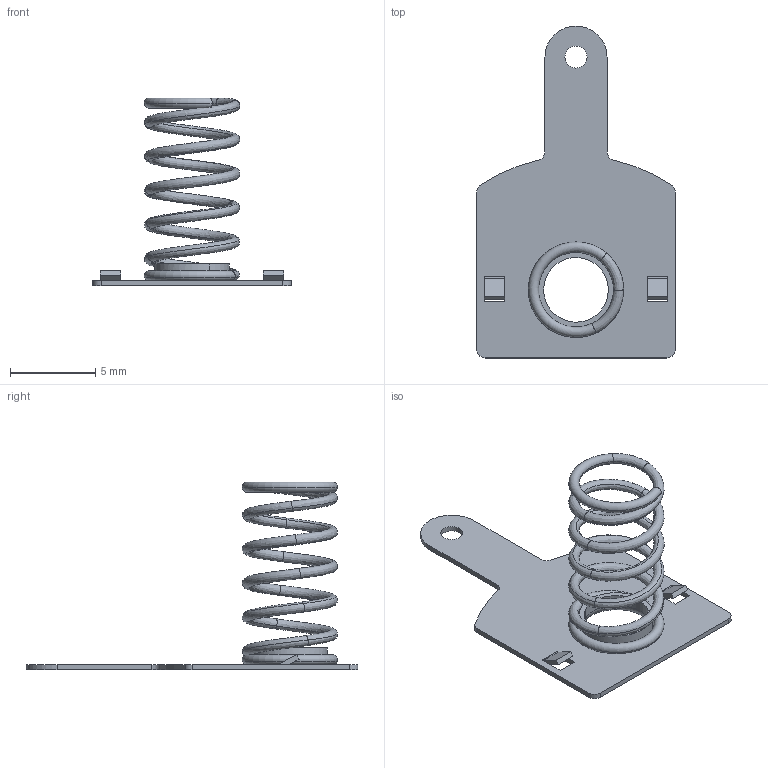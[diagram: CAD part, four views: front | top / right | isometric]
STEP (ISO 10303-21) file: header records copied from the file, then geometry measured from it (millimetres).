
FILE_DESCRIPTION(('CATIA V5 STEP Exchange'),'2;1');
FILE_NAME('X:\XDrive\Homepage\homes\techecke\elektronik\download\AA-Batteriekontakt_Minus.stp','2026-05-14T12:19:48+00:00',('none'),('none'),'CATIA Version 5 Release 19 SP 2 (IN-10)','CATIA V5 STEP AP203','none');
FILE_SCHEMA(('CONFIG_CONTROL_DESIGN'));
Length unit declared in the file: millimetre
Products named in the file (1): AA-Batteriekontakt_Minus
Bounding box: 11.65 x 19.5 x 11.04 mm (x, y, z)
Volume: 76 mm3; surface area: 523.4 mm2
Topology: 1 solids, 1 shells, 80 faces, 200 edges, 122 vertices
Faces by surface type: plane 26, bspline 26, cylinder 20, torus 8
Entity records: 4170 total; most frequent: CARTESIAN_POINT 2559, ORIENTED_EDGE 402, DIRECTION 217, EDGE_CURVE 200, VERTEX_POINT 122, AXIS2_PLACEMENT_3D 100, EDGE_LOOP 89, ADVANCED_FACE 80
